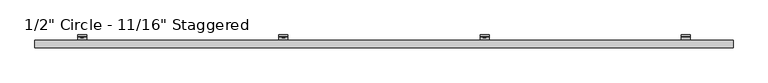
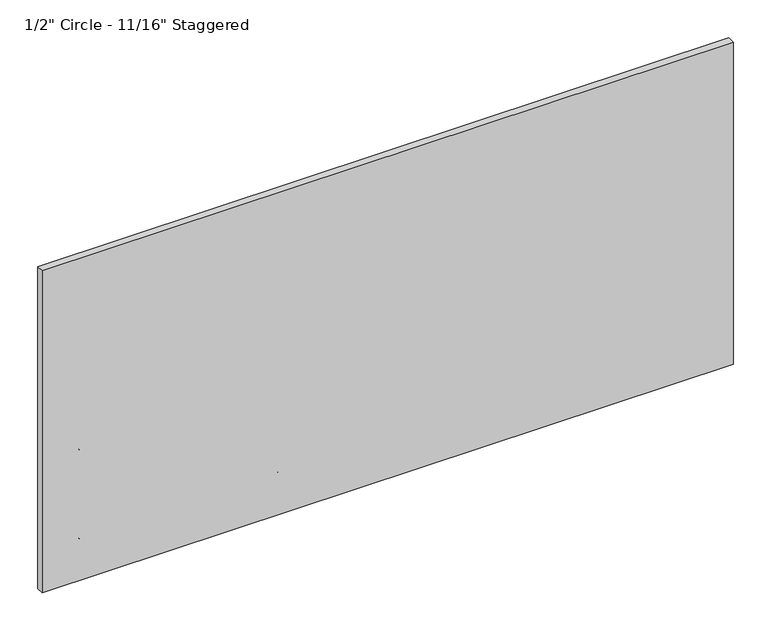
"""IFC4 building model written with IfcOpenShell, lengths in millimetres: plate geometry."""

from ifc_helpers import new_model, si_unit, point, frame, frame_2d, origin, place, context, project, spatial, polyline, circle_curve, trimmed, segment, composite_curve, outline, extrude, source, transform, mapped, element, save
from ifc_brep_helpers import plane_surface, cylinder_surface, revolved_surface, advanced_brep


def plate_b30df0bb(model_context):
    return source(origin(), model_context, "Body", "SolidModel", [
        advanced_brep(
        [(1279.525, -47.625, 561.2468868), (1279.525, -51.2819443, 553.5848544), (1279.525, -89.5163624, 526.8128266), (1279.525, -92.9330442, 530.2295084), (1279.525, -54.3526876, 557.2437649), (1279.525, -52.4002, 561.2469577), (1279.525, -52.4002, 595.439572), (1279.525, -47.625, 595.439572), (1317.625, -47.625, 561.2468868), (1317.625, -47.625, 595.439572), (1317.625, -52.4002, 595.439572), (1317.625, -52.4002, 561.2469577), (1317.625, -54.3526876, 557.2437649), (1317.625, -92.9330442, 530.2295084), (1317.625, -89.5163624, 526.8128266), (1317.625, -51.2819443, 553.5848544), (1305.3161889, -52.4002, 581.3943558), (1305.3161889, -52.4002, 575.0443558), (1289.0883287, -52.4002, 575.0443558), (1289.0883287, -52.4002, 581.3943558), (1305.3161889, -47.625, 575.0443558), (1305.3161889, -47.625, 581.3943558), (1289.0883287, -47.625, 581.3943558), (1289.0883287, -47.625, 575.0443558)],
        [
            (0, 1, circle_curve(frame((1279.525, -57.4802202, 561.2468868), z_axis=(-1.0, 0.0, 0.0), x_axis=(0.0, -1.0, 0.0)), 9.8552202)),
            (1, 2),
            (2, 3),
            (3, 4),
            (4, 5, circle_curve(frame((1279.525, -57.4803246, 561.2469577), z_axis=(1.0, 0.0, 0.0), x_axis=(0.0, -1.0, 0.0)), 5.0801246)),
            (5, 6),
            (6, 7),
            (7, 0),
            (8, 9),
            (9, 10),
            (10, 11),
            (11, 12, circle_curve(frame((1317.625, -57.4803246, 561.2469577), z_axis=(-1.0, 0.0, 0.0), x_axis=(0.0, -1.0, 0.0)), 5.0801246)),
            (12, 13),
            (13, 14),
            (14, 15),
            (15, 8, circle_curve(frame((1317.625, -57.4802202, 561.2468868), z_axis=(1.0, 0.0, 0.0), x_axis=(0.0, -1.0, 0.0)), 9.8552202)),
            (4, 12),
            (11, 5),
            (10, 6),
            (16, 17, circle_curve(frame((1305.3161889, -52.4002, 578.2193558), z_axis=(0.0, 1.0, 0.0), x_axis=(0.0, 0.0, -1.0)), 3.175)),
            (17, 18),
            (18, 19, circle_curve(frame((1289.0883287, -52.4002, 578.2193558), z_axis=(0.0, 1.0, 0.0), x_axis=(0.0, 0.0, -1.0)), 3.175)),
            (19, 16),
            (9, 7),
            (8, 0),
            (20, 21, circle_curve(frame((1305.3161889, -47.625, 578.2193558), z_axis=(0.0, -1.0, 0.0), x_axis=(0.0, 0.0, -1.0)), 3.175)),
            (21, 22),
            (22, 23, circle_curve(frame((1289.0883287, -47.625, 578.2193558), z_axis=(0.0, -1.0, 0.0), x_axis=(0.0, 0.0, -1.0)), 3.175)),
            (23, 20),
            (15, 1),
            (20, 17),
            (16, 21),
            (19, 22),
            (18, 23),
            (14, 2),
            (13, 3),
        ],
        [
            plane_surface(frame((1279.525, -67.3354404, 561.2468868), z_axis=(-1.0, 0.0, 0.0), x_axis=(0.0, 0.0, 1.0))),
            plane_surface(frame((1317.625, -67.3354404, 561.2468868), z_axis=(1.0, 0.0, 0.0), x_axis=(0.0, 0.0, -1.0))),
            revolved_surface(polyline([(1317.625, -62.5604492, 561.2469577), (1279.525, -62.5604492, 561.2469577)]), (1317.625, -57.4803246, 561.2469577), (1.0, 0.0, 0.0)),
            plane_surface(frame((1279.525, -52.4002, 561.2469577), z_axis=(0.0, -1.0, 0.0), x_axis=(1.0, 0.0, 0.0))),
            plane_surface(frame((1279.525, -52.4002, 595.439572), z_axis=(0.0, 0.0, 1.0), x_axis=(1.0, 0.0, 0.0))),
            plane_surface(frame((1279.525, -47.625, 595.439572), z_axis=(0.0, 1.0, 6.99569853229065e-12), x_axis=(1.0, 0.0, 0.0))),
            cylinder_surface(frame((1317.625, -57.4802202, 561.2468868), z_axis=(-1.0, 0.0, 0.0), x_axis=(0.0, -1.0, 0.0)), 9.8552202),
            revolved_surface(polyline([(1305.3161889, -52.4002, 575.0443558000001), (1305.3161889, -47.625, 575.0443558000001)]), (1305.3161889, -25.6669948, 578.2193558), (0.0, -1.0, 0.0)),
            plane_surface(frame((1305.3161889, -86.677982, 581.3943558), z_axis=(0.0, 0.0, -1.0), x_axis=(0.0, 1.0, 0.0))),
            revolved_surface(polyline([(1289.0883287, -52.4002, 575.0443558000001), (1289.0883287, -47.625, 575.0443558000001)]), (1289.0883287, -25.6669948, 578.2193558), (0.0, -1.0, 0.0)),
            plane_surface(frame((1289.0883287, -86.677982, 575.0443558), z_axis=(-2.7237733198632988e-11, 0.0, 1.0), x_axis=(0.0, 1.0, 0.0))),
            plane_surface(frame((1279.525, -51.2819443, 553.5848544), z_axis=(0.0, 0.5735764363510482, -0.8191520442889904), x_axis=(1.0, 0.0, 0.0))),
            plane_surface(frame((1279.525, -89.5163624, 526.8128266), z_axis=(0.0, -0.7071067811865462, -0.7071067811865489), x_axis=(1.0, 0.0, 0.0))),
            plane_surface(frame((1279.525, -92.9330442, 530.2295084), z_axis=(0.0, -0.5735764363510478, 0.8191520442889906), x_axis=(1.0, 0.0, 0.0))),
        ],
        [
            (0, [[1, 2, 3, 4, 5, 6, 7, 8]]),
            (1, [[9, 10, 11, 12, 13, 14, 15, 16]]),
            (2, [[-5, 17, -12, 18]]),
            (3, [[-6, -18, -11, 19], [20, 21, 22, 23]]),
            (4, [[-7, -19, -10, 24]]),
            (5, [[-8, -24, -9, 25], [26, 27, 28, 29]]),
            (6, [[-1, -25, -16, 30]]),
            (7, [[31, -20, 32, -26]]),
            (8, [[-32, -23, 33, -27]]),
            (9, [[-33, -22, 34, -28]]),
            (10, [[-31, -29, -34, -21]]),
            (11, [[-2, -30, -15, 35]]),
            (12, [[-3, -35, -14, 36]]),
            (13, [[-4, -36, -13, -17]]),
        ],
    ),
        extrude(outline(polyline([(578.3961989, 427.8403368), (574.0504864, 430.349335), (574.0504864, 435.3673316), (578.3961989, 437.8763299), (582.7419114, 435.3673316), (582.7419114, 430.349335), (578.3961989, 427.8403368)])), frame((0.0, -58.7607779, 0.0), z_axis=(0.0, 1.0, 0.0), x_axis=(0.0, 0.0, 1.0)), (0.0, 0.0, 1.0), 11.1357779),
        extrude(outline(composite_curve([segment(trimmed(circle_curve(frame_2d((578.4895059, 432.8583333)), 6.35), [point((578.4895059, 439.2083333))], [point((578.4895059, 426.5083333))], False, "CARTESIAN"), True, "CONTINUOUS"), segment(trimmed(circle_curve(frame_2d((578.4895059, 432.8583333)), 6.35), [point((578.4895059, 426.5083333))], [point((578.4895059, 439.2083333))], False, "CARTESIAN"), True, "CONTINUOUS")], self_intersect=False)), frame((0.0, -57.0817743, 0.0), z_axis=(0.0, 1.0, 0.0), x_axis=(0.0, 0.0, 1.0)), (0.0, 0.0, 1.0), 9.4567743),
        advanced_brep(
        [(413.8083333, -47.625, 561.2468868), (413.8083333, -51.2819443, 553.5848544), (413.8083333, -89.5163624, 526.8128266), (413.8083333, -92.9330442, 530.2295084), (413.8083333, -54.3526876, 557.2437649), (413.8083333, -52.4002, 561.2469577), (413.8083333, -52.4002, 595.439572), (413.8083333, -47.625, 595.439572), (451.9083333, -47.625, 561.2468868), (451.9083333, -47.625, 595.439572), (451.9083333, -52.4002, 595.439572), (451.9083333, -52.4002, 561.2469577), (451.9083333, -54.3526876, 557.2437649), (451.9083333, -92.9330442, 530.2295084), (451.9083333, -89.5163624, 526.8128266), (451.9083333, -51.2819443, 553.5848544), (439.5995222, -52.4002, 581.3943558), (439.5995222, -52.4002, 575.0443558), (423.371662, -52.4002, 575.0443558), (423.371662, -52.4002, 581.3943558), (439.5995222, -47.625, 575.0443558), (439.5995222, -47.625, 581.3943558), (423.371662, -47.625, 581.3943558), (423.371662, -47.625, 575.0443558)],
        [
            (0, 1, circle_curve(frame((413.8083333, -57.4802202, 561.2468868), z_axis=(-1.0, 0.0, 0.0), x_axis=(0.0, -1.0, 0.0)), 9.8552202)),
            (1, 2),
            (2, 3),
            (3, 4),
            (4, 5, circle_curve(frame((413.8083333, -57.4803246, 561.2469577), z_axis=(1.0, 0.0, 0.0), x_axis=(0.0, -1.0, 0.0)), 5.0801246)),
            (5, 6),
            (6, 7),
            (7, 0),
            (8, 9),
            (9, 10),
            (10, 11),
            (11, 12, circle_curve(frame((451.9083333, -57.4803246, 561.2469577), z_axis=(-1.0, 0.0, 0.0), x_axis=(0.0, -1.0, 0.0)), 5.0801246)),
            (12, 13),
            (13, 14),
            (14, 15),
            (15, 8, circle_curve(frame((451.9083333, -57.4802202, 561.2468868), z_axis=(1.0, 0.0, 0.0), x_axis=(0.0, -1.0, 0.0)), 9.8552202)),
            (4, 12),
            (11, 5),
            (10, 6),
            (16, 17, circle_curve(frame((439.5995222, -52.4002, 578.2193558), z_axis=(0.0, 1.0, 0.0), x_axis=(0.0, 0.0, -1.0)), 3.175)),
            (17, 18),
            (18, 19, circle_curve(frame((423.371662, -52.4002, 578.2193558), z_axis=(0.0, 1.0, 0.0), x_axis=(0.0, 0.0, -1.0)), 3.175)),
            (19, 16),
            (9, 7),
            (8, 0),
            (20, 21, circle_curve(frame((439.5995222, -47.625, 578.2193558), z_axis=(0.0, -1.0, 0.0), x_axis=(0.0, 0.0, -1.0)), 3.175)),
            (21, 22),
            (22, 23, circle_curve(frame((423.371662, -47.625, 578.2193558), z_axis=(0.0, -1.0, 0.0), x_axis=(0.0, 0.0, -1.0)), 3.175)),
            (23, 20),
            (15, 1),
            (20, 17),
            (16, 21),
            (19, 22),
            (18, 23),
            (14, 2),
            (13, 3),
        ],
        [
            plane_surface(frame((413.8083333, -67.3354404, 561.2468868), z_axis=(-1.0, 0.0, 0.0), x_axis=(0.0, 0.0, 1.0))),
            plane_surface(frame((451.9083333, -67.3354404, 561.2468868), z_axis=(1.0, 0.0, 0.0), x_axis=(0.0, 0.0, -1.0))),
            revolved_surface(polyline([(451.9083333, -62.5604492, 561.2469577), (413.8083333, -62.5604492, 561.2469577)]), (451.9083333, -57.4803246, 561.2469577), (1.0, 0.0, 0.0)),
            plane_surface(frame((413.8083333, -52.4002, 561.2469577), z_axis=(0.0, -1.0, 0.0), x_axis=(1.0, 0.0, 0.0))),
            plane_surface(frame((413.8083333, -52.4002, 595.439572), z_axis=(0.0, 0.0, 1.0), x_axis=(1.0, 0.0, 0.0))),
            plane_surface(frame((413.8083333, -47.625, 595.439572), z_axis=(0.0, 1.0, 6.99569853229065e-12), x_axis=(1.0, 0.0, 0.0))),
            cylinder_surface(frame((451.9083333, -57.4802202, 561.2468868), z_axis=(-1.0, 0.0, 0.0), x_axis=(0.0, -1.0, 0.0)), 9.8552202),
            revolved_surface(polyline([(439.5995222, -52.4002, 575.0443558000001), (439.5995222, -47.625, 575.0443558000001)]), (439.5995222, -25.6669948, 578.2193558), (0.0, -1.0, 0.0)),
            plane_surface(frame((439.5995222, -86.677982, 581.3943558), z_axis=(0.0, 0.0, -1.0), x_axis=(0.0, 1.0, 0.0))),
            revolved_surface(polyline([(423.371662, -52.4002, 575.0443558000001), (423.371662, -47.625, 575.0443558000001)]), (423.371662, -25.6669948, 578.2193558), (0.0, -1.0, 0.0)),
            plane_surface(frame((423.371662, -86.677982, 575.0443558), z_axis=(-2.7237733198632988e-11, 0.0, 1.0), x_axis=(0.0, 1.0, 0.0))),
            plane_surface(frame((413.8083333, -51.2819443, 553.5848544), z_axis=(0.0, 0.5735764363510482, -0.8191520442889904), x_axis=(1.0, 0.0, 0.0))),
            plane_surface(frame((413.8083333, -89.5163624, 526.8128266), z_axis=(0.0, -0.7071067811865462, -0.7071067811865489), x_axis=(1.0, 0.0, 0.0))),
            plane_surface(frame((413.8083333, -92.9330442, 530.2295084), z_axis=(0.0, -0.5735764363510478, 0.8191520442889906), x_axis=(1.0, 0.0, 0.0))),
        ],
        [
            (0, [[1, 2, 3, 4, 5, 6, 7, 8]]),
            (1, [[9, 10, 11, 12, 13, 14, 15, 16]]),
            (2, [[-5, 17, -12, 18]]),
            (3, [[-6, -18, -11, 19], [20, 21, 22, 23]]),
            (4, [[-7, -19, -10, 24]]),
            (5, [[-8, -24, -9, 25], [26, 27, 28, 29]]),
            (6, [[-1, -25, -16, 30]]),
            (7, [[31, -20, 32, -26]]),
            (8, [[-32, -23, 33, -27]]),
            (9, [[-33, -22, 34, -28]]),
            (10, [[-31, -29, -34, -21]]),
            (11, [[-2, -30, -15, 35]]),
            (12, [[-3, -35, -14, 36]]),
            (13, [[-4, -36, -13, -17]]),
        ],
    ),
        extrude(outline(polyline([(578.3961989, -437.8763299), (574.0504864, -435.3673316), (574.0504864, -430.349335), (578.3961989, -427.8403368), (582.7419114, -430.349335), (582.7419114, -435.3673316), (578.3961989, -437.8763299)])), frame((0.0, -58.7607779, 0.0), z_axis=(0.0, 1.0, 0.0), x_axis=(0.0, 0.0, 1.0)), (0.0, 0.0, 1.0), 11.1357779),
        extrude(outline(composite_curve([segment(trimmed(circle_curve(frame_2d((578.4895059, -432.8583333)), 6.35), [point((578.4895059, -426.5083333))], [point((578.4895059, -439.2083333))], False, "CARTESIAN"), True, "CONTINUOUS"), segment(trimmed(circle_curve(frame_2d((578.4895059, -432.8583333)), 6.35), [point((578.4895059, -439.2083333))], [point((578.4895059, -426.5083333))], False, "CARTESIAN"), True, "CONTINUOUS")], self_intersect=False)), frame((0.0, -57.0817743, 0.0), z_axis=(0.0, 1.0, 0.0), x_axis=(0.0, 0.0, 1.0)), (0.0, 0.0, 1.0), 9.4567743),
        advanced_brep(
        [(-451.9083333, -47.625, 561.2468868), (-451.9083333, -51.2819443, 553.5848544), (-451.9083333, -89.5163624, 526.8128266), (-451.9083333, -92.9330442, 530.2295084), (-451.9083333, -54.3526876, 557.2437649), (-451.9083333, -52.4002, 561.2469577), (-451.9083333, -52.4002, 595.439572), (-451.9083333, -47.625, 595.439572), (-413.8083333, -47.625, 561.2468868), (-413.8083333, -47.625, 595.439572), (-413.8083333, -52.4002, 595.439572), (-413.8083333, -52.4002, 561.2469577), (-413.8083333, -54.3526876, 557.2437649), (-413.8083333, -92.9330442, 530.2295084), (-413.8083333, -89.5163624, 526.8128266), (-413.8083333, -51.2819443, 553.5848544), (-426.1171444, -52.4002, 581.3943558), (-426.1171444, -52.4002, 575.0443558), (-442.3450046, -52.4002, 575.0443558), (-442.3450046, -52.4002, 581.3943558), (-426.1171444, -47.625, 575.0443558), (-426.1171444, -47.625, 581.3943558), (-442.3450046, -47.625, 581.3943558), (-442.3450046, -47.625, 575.0443558)],
        [
            (0, 1, circle_curve(frame((-451.9083333, -57.4802202, 561.2468868), z_axis=(-1.0, 0.0, 0.0), x_axis=(0.0, -1.0, 0.0)), 9.8552202)),
            (1, 2),
            (2, 3),
            (3, 4),
            (4, 5, circle_curve(frame((-451.9083333, -57.4803246, 561.2469577), z_axis=(1.0, 0.0, 0.0), x_axis=(0.0, -1.0, 0.0)), 5.0801246)),
            (5, 6),
            (6, 7),
            (7, 0),
            (8, 9),
            (9, 10),
            (10, 11),
            (11, 12, circle_curve(frame((-413.8083333, -57.4803246, 561.2469577), z_axis=(-1.0, 0.0, 0.0), x_axis=(0.0, -1.0, 0.0)), 5.0801246)),
            (12, 13),
            (13, 14),
            (14, 15),
            (15, 8, circle_curve(frame((-413.8083333, -57.4802202, 561.2468868), z_axis=(1.0, 0.0, 0.0), x_axis=(0.0, -1.0, 0.0)), 9.8552202)),
            (4, 12),
            (11, 5),
            (10, 6),
            (16, 17, circle_curve(frame((-426.1171444, -52.4002, 578.2193558), z_axis=(0.0, 1.0, 0.0), x_axis=(0.0, 0.0, -1.0)), 3.175)),
            (17, 18),
            (18, 19, circle_curve(frame((-442.3450046, -52.4002, 578.2193558), z_axis=(0.0, 1.0, 0.0), x_axis=(0.0, 0.0, -1.0)), 3.175)),
            (19, 16),
            (9, 7),
            (8, 0),
            (20, 21, circle_curve(frame((-426.1171444, -47.625, 578.2193558), z_axis=(0.0, -1.0, 0.0), x_axis=(0.0, 0.0, -1.0)), 3.175)),
            (21, 22),
            (22, 23, circle_curve(frame((-442.3450046, -47.625, 578.2193558), z_axis=(0.0, -1.0, 0.0), x_axis=(0.0, 0.0, -1.0)), 3.175)),
            (23, 20),
            (15, 1),
            (20, 17),
            (16, 21),
            (19, 22),
            (18, 23),
            (14, 2),
            (13, 3),
        ],
        [
            plane_surface(frame((-451.9083333, -67.3354404, 561.2468868), z_axis=(-1.0, 0.0, 0.0), x_axis=(0.0, 0.0, 1.0))),
            plane_surface(frame((-413.8083333, -67.3354404, 561.2468868), z_axis=(1.0, 0.0, 0.0), x_axis=(0.0, 0.0, -1.0))),
            revolved_surface(polyline([(-413.8083333, -62.5604492, 561.2469577), (-451.9083333, -62.5604492, 561.2469577)]), (-413.8083333, -57.4803246, 561.2469577), (1.0, 0.0, 0.0)),
            plane_surface(frame((-451.9083333, -52.4002, 561.2469577), z_axis=(0.0, -1.0, 0.0), x_axis=(1.0, 0.0, 0.0))),
            plane_surface(frame((-451.9083333, -52.4002, 595.439572), z_axis=(0.0, 0.0, 1.0), x_axis=(1.0, 0.0, 0.0))),
            plane_surface(frame((-451.9083333, -47.625, 595.439572), z_axis=(0.0, 1.0, 6.99569853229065e-12), x_axis=(1.0, 0.0, 0.0))),
            cylinder_surface(frame((-413.8083333, -57.4802202, 561.2468868), z_axis=(-1.0, 0.0, 0.0), x_axis=(0.0, -1.0, 0.0)), 9.8552202),
            revolved_surface(polyline([(-426.1171444, -52.4002, 575.0443558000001), (-426.1171444, -47.625, 575.0443558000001)]), (-426.1171444, -25.6669948, 578.2193558), (0.0, -1.0, 0.0)),
            plane_surface(frame((-426.1171444, -86.677982, 581.3943558), z_axis=(0.0, 0.0, -1.0), x_axis=(0.0, 1.0, 0.0))),
            revolved_surface(polyline([(-442.3450046, -52.4002, 575.0443558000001), (-442.3450046, -47.625, 575.0443558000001)]), (-442.3450046, -25.6669948, 578.2193558), (0.0, -1.0, 0.0)),
            plane_surface(frame((-442.3450046, -86.677982, 575.0443558), z_axis=(-2.7237733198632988e-11, 0.0, 1.0), x_axis=(0.0, 1.0, 0.0))),
            plane_surface(frame((-451.9083333, -51.2819443, 553.5848544), z_axis=(0.0, 0.5735764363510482, -0.8191520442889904), x_axis=(1.0, 0.0, 0.0))),
            plane_surface(frame((-451.9083333, -89.5163624, 526.8128266), z_axis=(0.0, -0.7071067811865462, -0.7071067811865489), x_axis=(1.0, 0.0, 0.0))),
            plane_surface(frame((-451.9083333, -92.9330442, 530.2295084), z_axis=(0.0, -0.5735764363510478, 0.8191520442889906), x_axis=(1.0, 0.0, 0.0))),
        ],
        [
            (0, [[1, 2, 3, 4, 5, 6, 7, 8]]),
            (1, [[9, 10, 11, 12, 13, 14, 15, 16]]),
            (2, [[-5, 17, -12, 18]]),
            (3, [[-6, -18, -11, 19], [20, 21, 22, 23]]),
            (4, [[-7, -19, -10, 24]]),
            (5, [[-8, -24, -9, 25], [26, 27, 28, 29]]),
            (6, [[-1, -25, -16, 30]]),
            (7, [[31, -20, 32, -26]]),
            (8, [[-32, -23, 33, -27]]),
            (9, [[-33, -22, 34, -28]]),
            (10, [[-31, -29, -34, -21]]),
            (11, [[-2, -30, -15, 35]]),
            (12, [[-3, -35, -14, 36]]),
            (13, [[-4, -36, -13, -17]]),
        ],
    ),
        extrude(outline(polyline([(578.3961989, -1303.5929966), (574.0504864, -1301.0839983), (574.0504864, -1296.0660017), (578.3961989, -1293.5570034), (582.7419114, -1296.0660017), (582.7419114, -1301.0839983), (578.3961989, -1303.5929966)])), frame((0.0, -58.7607779, 0.0), z_axis=(0.0, 1.0, 0.0), x_axis=(0.0, 0.0, 1.0)), (0.0, 0.0, 1.0), 11.1357779),
        extrude(outline(composite_curve([segment(trimmed(circle_curve(frame_2d((578.4895059, -1298.575)), 6.35), [point((578.4895059, -1292.225))], [point((578.4895059, -1304.925))], False, "CARTESIAN"), True, "CONTINUOUS"), segment(trimmed(circle_curve(frame_2d((578.4895059, -1298.575)), 6.35), [point((578.4895059, -1304.925))], [point((578.4895059, -1292.225))], False, "CARTESIAN"), True, "CONTINUOUS")], self_intersect=False)), frame((0.0, -57.0817743, 0.0), z_axis=(0.0, 1.0, 0.0), x_axis=(0.0, 0.0, 1.0)), (0.0, 0.0, 1.0), 9.4567743),
        advanced_brep(
        [(-1317.625, -47.625, 561.2468868), (-1317.625, -51.2819443, 553.5848544), (-1317.625, -89.5163624, 526.8128266), (-1317.625, -92.9330442, 530.2295084), (-1317.625, -54.3526876, 557.2437649), (-1317.625, -52.4002, 561.2469577), (-1317.625, -52.4002, 595.439572), (-1317.625, -47.625, 595.439572), (-1279.525, -47.625, 561.2468868), (-1279.525, -47.625, 595.439572), (-1279.525, -52.4002, 595.439572), (-1279.525, -52.4002, 561.2469577), (-1279.525, -54.3526876, 557.2437649), (-1279.525, -92.9330442, 530.2295084), (-1279.525, -89.5163624, 526.8128266), (-1279.525, -51.2819443, 553.5848544), (-1291.8338111, -52.4002, 581.3943558), (-1291.8338111, -52.4002, 575.0443558), (-1308.0616713, -52.4002, 575.0443558), (-1308.0616713, -52.4002, 581.3943558), (-1291.8338111, -47.625, 575.0443558), (-1291.8338111, -47.625, 581.3943558), (-1308.0616713, -47.625, 581.3943558), (-1308.0616713, -47.625, 575.0443558)],
        [
            (0, 1, circle_curve(frame((-1317.625, -57.4802202, 561.2468868), z_axis=(-1.0, 0.0, 0.0), x_axis=(0.0, -1.0, 0.0)), 9.8552202)),
            (1, 2),
            (2, 3),
            (3, 4),
            (4, 5, circle_curve(frame((-1317.625, -57.4803246, 561.2469577), z_axis=(1.0, 0.0, 0.0), x_axis=(0.0, -1.0, 0.0)), 5.0801246)),
            (5, 6),
            (6, 7),
            (7, 0),
            (8, 9),
            (9, 10),
            (10, 11),
            (11, 12, circle_curve(frame((-1279.525, -57.4803246, 561.2469577), z_axis=(-1.0, 0.0, 0.0), x_axis=(0.0, -1.0, 0.0)), 5.0801246)),
            (12, 13),
            (13, 14),
            (14, 15),
            (15, 8, circle_curve(frame((-1279.525, -57.4802202, 561.2468868), z_axis=(1.0, 0.0, 0.0), x_axis=(0.0, -1.0, 0.0)), 9.8552202)),
            (4, 12),
            (11, 5),
            (10, 6),
            (16, 17, circle_curve(frame((-1291.8338111, -52.4002, 578.2193558), z_axis=(0.0, 1.0, 0.0), x_axis=(0.0, 0.0, -1.0)), 3.175)),
            (17, 18),
            (18, 19, circle_curve(frame((-1308.0616713, -52.4002, 578.2193558), z_axis=(0.0, 1.0, 0.0), x_axis=(0.0, 0.0, -1.0)), 3.175)),
            (19, 16),
            (9, 7),
            (8, 0),
            (20, 21, circle_curve(frame((-1291.8338111, -47.625, 578.2193558), z_axis=(0.0, -1.0, 0.0), x_axis=(0.0, 0.0, -1.0)), 3.175)),
            (21, 22),
            (22, 23, circle_curve(frame((-1308.0616713, -47.625, 578.2193558), z_axis=(0.0, -1.0, 0.0), x_axis=(0.0, 0.0, -1.0)), 3.175)),
            (23, 20),
            (15, 1),
            (20, 17),
            (16, 21),
            (19, 22),
            (18, 23),
            (14, 2),
            (13, 3),
        ],
        [
            plane_surface(frame((-1317.625, -67.3354404, 561.2468868), z_axis=(-1.0, 0.0, 0.0), x_axis=(0.0, 0.0, 1.0))),
            plane_surface(frame((-1279.525, -67.3354404, 561.2468868), z_axis=(1.0, 0.0, 0.0), x_axis=(0.0, 0.0, -1.0))),
            revolved_surface(polyline([(-1279.525, -62.5604492, 561.2469577), (-1317.625, -62.5604492, 561.2469577)]), (-1279.525, -57.4803246, 561.2469577), (1.0, 0.0, 0.0)),
            plane_surface(frame((-1317.625, -52.4002, 561.2469577), z_axis=(0.0, -1.0, 0.0), x_axis=(1.0, 0.0, 0.0))),
            plane_surface(frame((-1317.625, -52.4002, 595.439572), z_axis=(0.0, 0.0, 1.0), x_axis=(1.0, 0.0, 0.0))),
            plane_surface(frame((-1317.625, -47.625, 595.439572), z_axis=(0.0, 1.0, 6.99569853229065e-12), x_axis=(1.0, 0.0, 0.0))),
            cylinder_surface(frame((-1279.525, -57.4802202, 561.2468868), z_axis=(-1.0, 0.0, 0.0), x_axis=(0.0, -1.0, 0.0)), 9.8552202),
            revolved_surface(polyline([(-1291.8338111, -52.4002, 575.0443558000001), (-1291.8338111, -47.625, 575.0443558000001)]), (-1291.8338111, -25.6669948, 578.2193558), (0.0, -1.0, 0.0)),
            plane_surface(frame((-1291.8338111, -86.677982, 581.3943558), z_axis=(0.0, 0.0, -1.0), x_axis=(0.0, 1.0, 0.0))),
            revolved_surface(polyline([(-1308.0616713, -52.4002, 575.0443558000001), (-1308.0616713, -47.625, 575.0443558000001)]), (-1308.0616713, -25.6669948, 578.2193558), (0.0, -1.0, 0.0)),
            plane_surface(frame((-1308.0616713, -86.677982, 575.0443558), z_axis=(-2.7237733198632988e-11, 0.0, 1.0), x_axis=(0.0, 1.0, 0.0))),
            plane_surface(frame((-1317.625, -51.2819443, 553.5848544), z_axis=(0.0, 0.5735764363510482, -0.8191520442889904), x_axis=(1.0, 0.0, 0.0))),
            plane_surface(frame((-1317.625, -89.5163624, 526.8128266), z_axis=(0.0, -0.7071067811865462, -0.7071067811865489), x_axis=(1.0, 0.0, 0.0))),
            plane_surface(frame((-1317.625, -92.9330442, 530.2295084), z_axis=(0.0, -0.5735764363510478, 0.8191520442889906), x_axis=(1.0, 0.0, 0.0))),
        ],
        [
            (0, [[1, 2, 3, 4, 5, 6, 7, 8]]),
            (1, [[9, 10, 11, 12, 13, 14, 15, 16]]),
            (2, [[-5, 17, -12, 18]]),
            (3, [[-6, -18, -11, 19], [20, 21, 22, 23]]),
            (4, [[-7, -19, -10, 24]]),
            (5, [[-8, -24, -9, 25], [26, 27, 28, 29]]),
            (6, [[-1, -25, -16, 30]]),
            (7, [[31, -20, 32, -26]]),
            (8, [[-32, -23, 33, -27]]),
            (9, [[-33, -22, 34, -28]]),
            (10, [[-31, -29, -34, -21]]),
            (11, [[-2, -30, -15, 35]]),
            (12, [[-3, -35, -14, 36]]),
            (13, [[-4, -36, -13, -17]]),
        ],
    ),
        extrude(outline(polyline([(169.8795323, 1293.5570034), (165.5338197, 1296.0660017), (165.5338197, 1301.0839983), (169.8795323, 1303.5929966), (174.2252448, 1301.0839983), (174.2252448, 1296.0660017), (169.8795323, 1293.5570034)])), frame((0.0, -58.7607779, 0.0), z_axis=(0.0, 1.0, 0.0), x_axis=(0.0, 0.0, 1.0)), (0.0, 0.0, 1.0), 11.1357779),
        extrude(outline(composite_curve([segment(trimmed(circle_curve(frame_2d((169.9728392, 1298.575)), 6.35), [point((169.9728392, 1304.925))], [point((169.9728392, 1292.225))], False, "CARTESIAN"), True, "CONTINUOUS"), segment(trimmed(circle_curve(frame_2d((169.9728392, 1298.575)), 6.35), [point((169.9728392, 1292.225))], [point((169.9728392, 1304.925))], False, "CARTESIAN"), True, "CONTINUOUS")], self_intersect=False)), frame((0.0, -57.0817743, 0.0), z_axis=(0.0, 1.0, 0.0), x_axis=(0.0, 0.0, 1.0)), (0.0, 0.0, 1.0), 9.4567743),
        advanced_brep(
        [(1279.525, -47.625, 152.7302202), (1279.525, -51.2819443, 145.0681877), (1279.525, -89.5163624, 118.29616), (1279.525, -92.9330442, 121.7128418), (1279.525, -54.3526876, 148.7270983), (1279.525, -52.4002, 152.7302911), (1279.525, -52.4002, 186.9229053), (1279.525, -47.625, 186.9229053), (1317.625, -47.625, 152.7302202), (1317.625, -47.625, 186.9229053), (1317.625, -52.4002, 186.9229053), (1317.625, -52.4002, 152.7302911), (1317.625, -54.3526876, 148.7270983), (1317.625, -92.9330442, 121.7128418), (1317.625, -89.5163624, 118.29616), (1317.625, -51.2819443, 145.0681877), (1305.3161889, -52.4002, 172.8776891), (1305.3161889, -52.4002, 166.5276891), (1289.0883287, -52.4002, 166.5276891), (1289.0883287, -52.4002, 172.8776891), (1305.3161889, -47.625, 166.5276891), (1305.3161889, -47.625, 172.8776891), (1289.0883287, -47.625, 172.8776891), (1289.0883287, -47.625, 166.5276891)],
        [
            (0, 1, circle_curve(frame((1279.525, -57.4802202, 152.7302202), z_axis=(-1.0, 0.0, 0.0), x_axis=(0.0, -1.0, 0.0)), 9.8552202)),
            (1, 2),
            (2, 3),
            (3, 4),
            (4, 5, circle_curve(frame((1279.525, -57.4803246, 152.7302911), z_axis=(1.0, 0.0, 0.0), x_axis=(0.0, -1.0, 0.0)), 5.0801246)),
            (5, 6),
            (6, 7),
            (7, 0),
            (8, 9),
            (9, 10),
            (10, 11),
            (11, 12, circle_curve(frame((1317.625, -57.4803246, 152.7302911), z_axis=(-1.0, 0.0, 0.0), x_axis=(0.0, -1.0, 0.0)), 5.0801246)),
            (12, 13),
            (13, 14),
            (14, 15),
            (15, 8, circle_curve(frame((1317.625, -57.4802202, 152.7302202), z_axis=(1.0, 0.0, 0.0), x_axis=(0.0, -1.0, 0.0)), 9.8552202)),
            (4, 12),
            (11, 5),
            (10, 6),
            (16, 17, circle_curve(frame((1305.3161889, -52.4002, 169.7026891), z_axis=(0.0, 1.0, 0.0), x_axis=(0.0, 0.0, -1.0)), 3.175)),
            (17, 18),
            (18, 19, circle_curve(frame((1289.0883287, -52.4002, 169.7026891), z_axis=(0.0, 1.0, 0.0), x_axis=(0.0, 0.0, -1.0)), 3.175)),
            (19, 16),
            (9, 7),
            (8, 0),
            (20, 21, circle_curve(frame((1305.3161889, -47.625, 169.7026891), z_axis=(0.0, -1.0, 0.0), x_axis=(0.0, 0.0, -1.0)), 3.175)),
            (21, 22),
            (22, 23, circle_curve(frame((1289.0883287, -47.625, 169.7026891), z_axis=(0.0, -1.0, 0.0), x_axis=(0.0, 0.0, -1.0)), 3.175)),
            (23, 20),
            (15, 1),
            (20, 17),
            (16, 21),
            (19, 22),
            (18, 23),
            (14, 2),
            (13, 3),
        ],
        [
            plane_surface(frame((1279.525, -67.3354404, 152.7302202), z_axis=(-1.0, 0.0, 0.0), x_axis=(0.0, 0.0, 1.0))),
            plane_surface(frame((1317.625, -67.3354404, 152.7302202), z_axis=(1.0, 0.0, 0.0), x_axis=(0.0, 0.0, -1.0))),
            revolved_surface(polyline([(1317.625, -62.5604492, 152.7302911), (1279.525, -62.5604492, 152.7302911)]), (1317.625, -57.4803246, 152.7302911), (1.0, 0.0, 0.0)),
            plane_surface(frame((1279.525, -52.4002, 152.7302911), z_axis=(0.0, -1.0, 0.0), x_axis=(1.0, 0.0, 0.0))),
            plane_surface(frame((1279.525, -52.4002, 186.9229053), z_axis=(0.0, 0.0, 1.0), x_axis=(1.0, 0.0, 0.0))),
            plane_surface(frame((1279.525, -47.625, 186.9229053), z_axis=(0.0, 1.0, 6.99569853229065e-12), x_axis=(1.0, 0.0, 0.0))),
            cylinder_surface(frame((1317.625, -57.4802202, 152.7302202), z_axis=(-1.0, 0.0, 0.0), x_axis=(0.0, -1.0, 0.0)), 9.8552202),
            revolved_surface(polyline([(1305.3161889, -52.4002, 166.52768909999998), (1305.3161889, -47.625, 166.52768909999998)]), (1305.3161889, -25.6669948, 169.7026891), (0.0, -1.0, 0.0)),
            plane_surface(frame((1305.3161889, -86.677982, 172.8776891), z_axis=(0.0, 0.0, -1.0), x_axis=(0.0, 1.0, 0.0))),
            revolved_surface(polyline([(1289.0883287, -52.4002, 166.52768909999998), (1289.0883287, -47.625, 166.52768909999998)]), (1289.0883287, -25.6669948, 169.7026891), (0.0, -1.0, 0.0)),
            plane_surface(frame((1289.0883287, -86.677982, 166.5276891), z_axis=(-2.723774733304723e-11, 0.0, 1.0), x_axis=(0.0, 1.0, 0.0))),
            plane_surface(frame((1279.525, -51.2819443, 145.0681877), z_axis=(0.0, 0.5735764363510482, -0.8191520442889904), x_axis=(1.0, 0.0, 0.0))),
            plane_surface(frame((1279.525, -89.5163624, 118.29616), z_axis=(0.0, -0.7071067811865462, -0.7071067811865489), x_axis=(1.0, 0.0, 0.0))),
            plane_surface(frame((1279.525, -92.9330442, 121.7128418), z_axis=(0.0, -0.5735764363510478, 0.8191520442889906), x_axis=(1.0, 0.0, 0.0))),
        ],
        [
            (0, [[1, 2, 3, 4, 5, 6, 7, 8]]),
            (1, [[9, 10, 11, 12, 13, 14, 15, 16]]),
            (2, [[-5, 17, -12, 18]]),
            (3, [[-6, -18, -11, 19], [20, 21, 22, 23]]),
            (4, [[-7, -19, -10, 24]]),
            (5, [[-8, -24, -9, 25], [26, 27, 28, 29]]),
            (6, [[-1, -25, -16, 30]]),
            (7, [[31, -20, 32, -26]]),
            (8, [[-32, -23, 33, -27]]),
            (9, [[-33, -22, 34, -28]]),
            (10, [[-31, -29, -34, -21]]),
            (11, [[-2, -30, -15, 35]]),
            (12, [[-3, -35, -14, 36]]),
            (13, [[-4, -36, -13, -17]]),
        ],
    ),
        extrude(outline(polyline([(169.8795323, 427.8403368), (165.5338197, 430.349335), (165.5338197, 435.3673316), (169.8795323, 437.8763299), (174.2252448, 435.3673316), (174.2252448, 430.349335), (169.8795323, 427.8403368)])), frame((0.0, -58.7607779, 0.0), z_axis=(0.0, 1.0, 0.0), x_axis=(0.0, 0.0, 1.0)), (0.0, 0.0, 1.0), 11.1357779),
        extrude(outline(composite_curve([segment(trimmed(circle_curve(frame_2d((169.9728392, 432.8583333)), 6.35), [point((169.9728392, 439.2083333))], [point((169.9728392, 426.5083333))], False, "CARTESIAN"), True, "CONTINUOUS"), segment(trimmed(circle_curve(frame_2d((169.9728392, 432.8583333)), 6.35), [point((169.9728392, 426.5083333))], [point((169.9728392, 439.2083333))], False, "CARTESIAN"), True, "CONTINUOUS")], self_intersect=False)), frame((0.0, -57.0817743, 0.0), z_axis=(0.0, 1.0, 0.0), x_axis=(0.0, 0.0, 1.0)), (0.0, 0.0, 1.0), 9.4567743),
        advanced_brep(
        [(413.8083333, -47.625, 152.7302202), (413.8083333, -51.2819443, 145.0681877), (413.8083333, -89.5163624, 118.29616), (413.8083333, -92.9330442, 121.7128418), (413.8083333, -54.3526876, 148.7270983), (413.8083333, -52.4002, 152.7302911), (413.8083333, -52.4002, 186.9229053), (413.8083333, -47.625, 186.9229053), (451.9083333, -47.625, 152.7302202), (451.9083333, -47.625, 186.9229053), (451.9083333, -52.4002, 186.9229053), (451.9083333, -52.4002, 152.7302911), (451.9083333, -54.3526876, 148.7270983), (451.9083333, -92.9330442, 121.7128418), (451.9083333, -89.5163624, 118.29616), (451.9083333, -51.2819443, 145.0681877), (439.5995222, -52.4002, 172.8776891), (439.5995222, -52.4002, 166.5276891), (423.371662, -52.4002, 166.5276891), (423.371662, -52.4002, 172.8776891), (439.5995222, -47.625, 166.5276891), (439.5995222, -47.625, 172.8776891), (423.371662, -47.625, 172.8776891), (423.371662, -47.625, 166.5276891)],
        [
            (0, 1, circle_curve(frame((413.8083333, -57.4802202, 152.7302202), z_axis=(-1.0, 0.0, 0.0), x_axis=(0.0, -1.0, 0.0)), 9.8552202)),
            (1, 2),
            (2, 3),
            (3, 4),
            (4, 5, circle_curve(frame((413.8083333, -57.4803246, 152.7302911), z_axis=(1.0, 0.0, 0.0), x_axis=(0.0, -1.0, 0.0)), 5.0801246)),
            (5, 6),
            (6, 7),
            (7, 0),
            (8, 9),
            (9, 10),
            (10, 11),
            (11, 12, circle_curve(frame((451.9083333, -57.4803246, 152.7302911), z_axis=(-1.0, 0.0, 0.0), x_axis=(0.0, -1.0, 0.0)), 5.0801246)),
            (12, 13),
            (13, 14),
            (14, 15),
            (15, 8, circle_curve(frame((451.9083333, -57.4802202, 152.7302202), z_axis=(1.0, 0.0, 0.0), x_axis=(0.0, -1.0, 0.0)), 9.8552202)),
            (4, 12),
            (11, 5),
            (10, 6),
            (16, 17, circle_curve(frame((439.5995222, -52.4002, 169.7026891), z_axis=(0.0, 1.0, 0.0), x_axis=(0.0, 0.0, -1.0)), 3.175)),
            (17, 18),
            (18, 19, circle_curve(frame((423.371662, -52.4002, 169.7026891), z_axis=(0.0, 1.0, 0.0), x_axis=(0.0, 0.0, -1.0)), 3.175)),
            (19, 16),
            (9, 7),
            (8, 0),
            (20, 21, circle_curve(frame((439.5995222, -47.625, 169.7026891), z_axis=(0.0, -1.0, 0.0), x_axis=(0.0, 0.0, -1.0)), 3.175)),
            (21, 22),
            (22, 23, circle_curve(frame((423.371662, -47.625, 169.7026891), z_axis=(0.0, -1.0, 0.0), x_axis=(0.0, 0.0, -1.0)), 3.175)),
            (23, 20),
            (15, 1),
            (20, 17),
            (16, 21),
            (19, 22),
            (18, 23),
            (14, 2),
            (13, 3),
        ],
        [
            plane_surface(frame((413.8083333, -67.3354404, 152.7302202), z_axis=(-1.0, 0.0, 0.0), x_axis=(0.0, 0.0, 1.0))),
            plane_surface(frame((451.9083333, -67.3354404, 152.7302202), z_axis=(1.0, 0.0, 0.0), x_axis=(0.0, 0.0, -1.0))),
            revolved_surface(polyline([(451.9083333, -62.5604492, 152.7302911), (413.8083333, -62.5604492, 152.7302911)]), (451.9083333, -57.4803246, 152.7302911), (1.0, 0.0, 0.0)),
            plane_surface(frame((413.8083333, -52.4002, 152.7302911), z_axis=(0.0, -1.0, 0.0), x_axis=(1.0, 0.0, 0.0))),
            plane_surface(frame((413.8083333, -52.4002, 186.9229053), z_axis=(0.0, 0.0, 1.0), x_axis=(1.0, 0.0, 0.0))),
            plane_surface(frame((413.8083333, -47.625, 186.9229053), z_axis=(0.0, 1.0, 6.99569853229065e-12), x_axis=(1.0, 0.0, 0.0))),
            cylinder_surface(frame((451.9083333, -57.4802202, 152.7302202), z_axis=(-1.0, 0.0, 0.0), x_axis=(0.0, -1.0, 0.0)), 9.8552202),
            revolved_surface(polyline([(439.5995222, -52.4002, 166.52768909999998), (439.5995222, -47.625, 166.52768909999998)]), (439.5995222, -25.6669948, 169.7026891), (0.0, -1.0, 0.0)),
            plane_surface(frame((439.5995222, -86.677982, 172.8776891), z_axis=(0.0, 0.0, -1.0), x_axis=(0.0, 1.0, 0.0))),
            revolved_surface(polyline([(423.371662, -52.4002, 166.52768909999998), (423.371662, -47.625, 166.52768909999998)]), (423.371662, -25.6669948, 169.7026891), (0.0, -1.0, 0.0)),
            plane_surface(frame((423.371662, -86.677982, 166.5276891), z_axis=(-2.723774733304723e-11, 0.0, 1.0), x_axis=(0.0, 1.0, 0.0))),
            plane_surface(frame((413.8083333, -51.2819443, 145.0681877), z_axis=(0.0, 0.5735764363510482, -0.8191520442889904), x_axis=(1.0, 0.0, 0.0))),
            plane_surface(frame((413.8083333, -89.5163624, 118.29616), z_axis=(0.0, -0.7071067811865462, -0.7071067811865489), x_axis=(1.0, 0.0, 0.0))),
            plane_surface(frame((413.8083333, -92.9330442, 121.7128418), z_axis=(0.0, -0.5735764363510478, 0.8191520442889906), x_axis=(1.0, 0.0, 0.0))),
        ],
        [
            (0, [[1, 2, 3, 4, 5, 6, 7, 8]]),
            (1, [[9, 10, 11, 12, 13, 14, 15, 16]]),
            (2, [[-5, 17, -12, 18]]),
            (3, [[-6, -18, -11, 19], [20, 21, 22, 23]]),
            (4, [[-7, -19, -10, 24]]),
            (5, [[-8, -24, -9, 25], [26, 27, 28, 29]]),
            (6, [[-1, -25, -16, 30]]),
            (7, [[31, -20, 32, -26]]),
            (8, [[-32, -23, 33, -27]]),
            (9, [[-33, -22, 34, -28]]),
            (10, [[-31, -29, -34, -21]]),
            (11, [[-2, -30, -15, 35]]),
            (12, [[-3, -35, -14, 36]]),
            (13, [[-4, -36, -13, -17]]),
        ],
    ),
        extrude(outline(polyline([(169.8795323, -437.8763299), (165.5338197, -435.3673316), (165.5338197, -430.349335), (169.8795323, -427.8403368), (174.2252448, -430.349335), (174.2252448, -435.3673316), (169.8795323, -437.8763299)])), frame((0.0, -58.7607779, 0.0), z_axis=(0.0, 1.0, 0.0), x_axis=(0.0, 0.0, 1.0)), (0.0, 0.0, 1.0), 11.1357779),
        extrude(outline(composite_curve([segment(trimmed(circle_curve(frame_2d((169.9728392, -432.8583333)), 6.35), [point((169.9728392, -426.5083333))], [point((169.9728392, -439.2083333))], False, "CARTESIAN"), True, "CONTINUOUS"), segment(trimmed(circle_curve(frame_2d((169.9728392, -432.8583333)), 6.35), [point((169.9728392, -439.2083333))], [point((169.9728392, -426.5083333))], False, "CARTESIAN"), True, "CONTINUOUS")], self_intersect=False)), frame((0.0, -57.0817743, 0.0), z_axis=(0.0, 1.0, 0.0), x_axis=(0.0, 0.0, 1.0)), (0.0, 0.0, 1.0), 9.4567743),
        advanced_brep(
        [(-451.9083333, -47.625, 152.7302202), (-451.9083333, -51.2819443, 145.0681877), (-451.9083333, -89.5163624, 118.29616), (-451.9083333, -92.9330442, 121.7128418), (-451.9083333, -54.3526876, 148.7270983), (-451.9083333, -52.4002, 152.7302911), (-451.9083333, -52.4002, 186.9229053), (-451.9083333, -47.625, 186.9229053), (-413.8083333, -47.625, 152.7302202), (-413.8083333, -47.625, 186.9229053), (-413.8083333, -52.4002, 186.9229053), (-413.8083333, -52.4002, 152.7302911), (-413.8083333, -54.3526876, 148.7270983), (-413.8083333, -92.9330442, 121.7128418), (-413.8083333, -89.5163624, 118.29616), (-413.8083333, -51.2819443, 145.0681877), (-426.1171444, -52.4002, 172.8776891), (-426.1171444, -52.4002, 166.5276891), (-442.3450046, -52.4002, 166.5276891), (-442.3450046, -52.4002, 172.8776891), (-426.1171444, -47.625, 166.5276891), (-426.1171444, -47.625, 172.8776891), (-442.3450046, -47.625, 172.8776891), (-442.3450046, -47.625, 166.5276891)],
        [
            (0, 1, circle_curve(frame((-451.9083333, -57.4802202, 152.7302202), z_axis=(-1.0, 0.0, 0.0), x_axis=(0.0, -1.0, 0.0)), 9.8552202)),
            (1, 2),
            (2, 3),
            (3, 4),
            (4, 5, circle_curve(frame((-451.9083333, -57.4803246, 152.7302911), z_axis=(1.0, 0.0, 0.0), x_axis=(0.0, -1.0, 0.0)), 5.0801246)),
            (5, 6),
            (6, 7),
            (7, 0),
            (8, 9),
            (9, 10),
            (10, 11),
            (11, 12, circle_curve(frame((-413.8083333, -57.4803246, 152.7302911), z_axis=(-1.0, 0.0, 0.0), x_axis=(0.0, -1.0, 0.0)), 5.0801246)),
            (12, 13),
            (13, 14),
            (14, 15),
            (15, 8, circle_curve(frame((-413.8083333, -57.4802202, 152.7302202), z_axis=(1.0, 0.0, 0.0), x_axis=(0.0, -1.0, 0.0)), 9.8552202)),
            (4, 12),
            (11, 5),
            (10, 6),
            (16, 17, circle_curve(frame((-426.1171444, -52.4002, 169.7026891), z_axis=(0.0, 1.0, 0.0), x_axis=(0.0, 0.0, -1.0)), 3.175)),
            (17, 18),
            (18, 19, circle_curve(frame((-442.3450046, -52.4002, 169.7026891), z_axis=(0.0, 1.0, 0.0), x_axis=(0.0, 0.0, -1.0)), 3.175)),
            (19, 16),
            (9, 7),
            (8, 0),
            (20, 21, circle_curve(frame((-426.1171444, -47.625, 169.7026891), z_axis=(0.0, -1.0, 0.0), x_axis=(0.0, 0.0, -1.0)), 3.175)),
            (21, 22),
            (22, 23, circle_curve(frame((-442.3450046, -47.625, 169.7026891), z_axis=(0.0, -1.0, 0.0), x_axis=(0.0, 0.0, -1.0)), 3.175)),
            (23, 20),
            (15, 1),
            (20, 17),
            (16, 21),
            (19, 22),
            (18, 23),
            (14, 2),
            (13, 3),
        ],
        [
            plane_surface(frame((-451.9083333, -67.3354404, 152.7302202), z_axis=(-1.0, 0.0, 0.0), x_axis=(0.0, 0.0, 1.0))),
            plane_surface(frame((-413.8083333, -67.3354404, 152.7302202), z_axis=(1.0, 0.0, 0.0), x_axis=(0.0, 0.0, -1.0))),
            revolved_surface(polyline([(-413.8083333, -62.5604492, 152.7302911), (-451.9083333, -62.5604492, 152.7302911)]), (-413.8083333, -57.4803246, 152.7302911), (1.0, 0.0, 0.0)),
            plane_surface(frame((-451.9083333, -52.4002, 152.7302911), z_axis=(0.0, -1.0, 0.0), x_axis=(1.0, 0.0, 0.0))),
            plane_surface(frame((-451.9083333, -52.4002, 186.9229053), z_axis=(0.0, 0.0, 1.0), x_axis=(1.0, 0.0, 0.0))),
            plane_surface(frame((-451.9083333, -47.625, 186.9229053), z_axis=(0.0, 1.0, 6.99569853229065e-12), x_axis=(1.0, 0.0, 0.0))),
            cylinder_surface(frame((-413.8083333, -57.4802202, 152.7302202), z_axis=(-1.0, 0.0, 0.0), x_axis=(0.0, -1.0, 0.0)), 9.8552202),
            revolved_surface(polyline([(-426.1171444, -52.4002, 166.52768909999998), (-426.1171444, -47.625, 166.52768909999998)]), (-426.1171444, -25.6669948, 169.7026891), (0.0, -1.0, 0.0)),
            plane_surface(frame((-426.1171444, -86.677982, 172.8776891), z_axis=(0.0, 0.0, -1.0), x_axis=(0.0, 1.0, 0.0))),
            revolved_surface(polyline([(-442.3450046, -52.4002, 166.52768909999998), (-442.3450046, -47.625, 166.52768909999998)]), (-442.3450046, -25.6669948, 169.7026891), (0.0, -1.0, 0.0)),
            plane_surface(frame((-442.3450046, -86.677982, 166.5276891), z_axis=(-2.723774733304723e-11, 0.0, 1.0), x_axis=(0.0, 1.0, 0.0))),
            plane_surface(frame((-451.9083333, -51.2819443, 145.0681877), z_axis=(0.0, 0.5735764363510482, -0.8191520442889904), x_axis=(1.0, 0.0, 0.0))),
            plane_surface(frame((-451.9083333, -89.5163624, 118.29616), z_axis=(0.0, -0.7071067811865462, -0.7071067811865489), x_axis=(1.0, 0.0, 0.0))),
            plane_surface(frame((-451.9083333, -92.9330442, 121.7128418), z_axis=(0.0, -0.5735764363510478, 0.8191520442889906), x_axis=(1.0, 0.0, 0.0))),
        ],
        [
            (0, [[1, 2, 3, 4, 5, 6, 7, 8]]),
            (1, [[9, 10, 11, 12, 13, 14, 15, 16]]),
            (2, [[-5, 17, -12, 18]]),
            (3, [[-6, -18, -11, 19], [20, 21, 22, 23]]),
            (4, [[-7, -19, -10, 24]]),
            (5, [[-8, -24, -9, 25], [26, 27, 28, 29]]),
            (6, [[-1, -25, -16, 30]]),
            (7, [[31, -20, 32, -26]]),
            (8, [[-32, -23, 33, -27]]),
            (9, [[-33, -22, 34, -28]]),
            (10, [[-31, -29, -34, -21]]),
            (11, [[-2, -30, -15, 35]]),
            (12, [[-3, -35, -14, 36]]),
            (13, [[-4, -36, -13, -17]]),
        ],
    ),
        extrude(outline(polyline([(169.8795323, -1303.5929966), (165.5338197, -1301.0839983), (165.5338197, -1296.0660017), (169.8795323, -1293.5570034), (174.2252448, -1296.0660017), (174.2252448, -1301.0839983), (169.8795323, -1303.5929966)])), frame((0.0, -58.7607779, 0.0), z_axis=(0.0, 1.0, 0.0), x_axis=(0.0, 0.0, 1.0)), (0.0, 0.0, 1.0), 11.1357779),
        extrude(outline(composite_curve([segment(trimmed(circle_curve(frame_2d((169.9728392, -1298.575)), 6.35), [point((169.9728392, -1292.225))], [point((169.9728392, -1304.925))], False, "CARTESIAN"), True, "CONTINUOUS"), segment(trimmed(circle_curve(frame_2d((169.9728392, -1298.575)), 6.35), [point((169.9728392, -1304.925))], [point((169.9728392, -1292.225))], False, "CARTESIAN"), True, "CONTINUOUS")], self_intersect=False)), frame((0.0, -57.0817743, 0.0), z_axis=(0.0, 1.0, 0.0), x_axis=(0.0, 0.0, 1.0)), (0.0, 0.0, 1.0), 9.4567743),
        advanced_brep(
        [(-1317.625, -47.625, 152.7302202), (-1317.625, -51.2819443, 145.0681877), (-1317.625, -89.5163624, 118.29616), (-1317.625, -92.9330442, 121.7128418), (-1317.625, -54.3526876, 148.7270983), (-1317.625, -52.4002, 152.7302911), (-1317.625, -52.4002, 186.9229053), (-1317.625, -47.625, 186.9229053), (-1279.525, -47.625, 152.7302202), (-1279.525, -47.625, 186.9229053), (-1279.525, -52.4002, 186.9229053), (-1279.525, -52.4002, 152.7302911), (-1279.525, -54.3526876, 148.7270983), (-1279.525, -92.9330442, 121.7128418), (-1279.525, -89.5163624, 118.29616), (-1279.525, -51.2819443, 145.0681877), (-1291.8338111, -52.4002, 172.8776891), (-1291.8338111, -52.4002, 166.5276891), (-1308.0616713, -52.4002, 166.5276891), (-1308.0616713, -52.4002, 172.8776891), (-1291.8338111, -47.625, 166.5276891), (-1291.8338111, -47.625, 172.8776891), (-1308.0616713, -47.625, 172.8776891), (-1308.0616713, -47.625, 166.5276891)],
        [
            (0, 1, circle_curve(frame((-1317.625, -57.4802202, 152.7302202), z_axis=(-1.0, 0.0, 0.0), x_axis=(0.0, -1.0, 0.0)), 9.8552202)),
            (1, 2),
            (2, 3),
            (3, 4),
            (4, 5, circle_curve(frame((-1317.625, -57.4803246, 152.7302911), z_axis=(1.0, 0.0, 0.0), x_axis=(0.0, -1.0, 0.0)), 5.0801246)),
            (5, 6),
            (6, 7),
            (7, 0),
            (8, 9),
            (9, 10),
            (10, 11),
            (11, 12, circle_curve(frame((-1279.525, -57.4803246, 152.7302911), z_axis=(-1.0, 0.0, 0.0), x_axis=(0.0, -1.0, 0.0)), 5.0801246)),
            (12, 13),
            (13, 14),
            (14, 15),
            (15, 8, circle_curve(frame((-1279.525, -57.4802202, 152.7302202), z_axis=(1.0, 0.0, 0.0), x_axis=(0.0, -1.0, 0.0)), 9.8552202)),
            (4, 12),
            (11, 5),
            (10, 6),
            (16, 17, circle_curve(frame((-1291.8338111, -52.4002, 169.7026891), z_axis=(0.0, 1.0, 0.0), x_axis=(0.0, 0.0, -1.0)), 3.175)),
            (17, 18),
            (18, 19, circle_curve(frame((-1308.0616713, -52.4002, 169.7026891), z_axis=(0.0, 1.0, 0.0), x_axis=(0.0, 0.0, -1.0)), 3.175)),
            (19, 16),
            (9, 7),
            (8, 0),
            (20, 21, circle_curve(frame((-1291.8338111, -47.625, 169.7026891), z_axis=(0.0, -1.0, 0.0), x_axis=(0.0, 0.0, -1.0)), 3.175)),
            (21, 22),
            (22, 23, circle_curve(frame((-1308.0616713, -47.625, 169.7026891), z_axis=(0.0, -1.0, 0.0), x_axis=(0.0, 0.0, -1.0)), 3.175)),
            (23, 20),
            (15, 1),
            (20, 17),
            (16, 21),
            (19, 22),
            (18, 23),
            (14, 2),
            (13, 3),
        ],
        [
            plane_surface(frame((-1317.625, -67.3354404, 152.7302202), z_axis=(-1.0, 0.0, 0.0), x_axis=(0.0, 0.0, 1.0))),
            plane_surface(frame((-1279.525, -67.3354404, 152.7302202), z_axis=(1.0, 0.0, 0.0), x_axis=(0.0, 0.0, -1.0))),
            revolved_surface(polyline([(-1279.525, -62.5604492, 152.7302911), (-1317.625, -62.5604492, 152.7302911)]), (-1279.525, -57.4803246, 152.7302911), (1.0, 0.0, 0.0)),
            plane_surface(frame((-1317.625, -52.4002, 152.7302911), z_axis=(0.0, -1.0, 0.0), x_axis=(1.0, 0.0, 0.0))),
            plane_surface(frame((-1317.625, -52.4002, 186.9229053), z_axis=(0.0, 0.0, 1.0), x_axis=(1.0, 0.0, 0.0))),
            plane_surface(frame((-1317.625, -47.625, 186.9229053), z_axis=(0.0, 1.0, 6.99569853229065e-12), x_axis=(1.0, 0.0, 0.0))),
            cylinder_surface(frame((-1279.525, -57.4802202, 152.7302202), z_axis=(-1.0, 0.0, 0.0), x_axis=(0.0, -1.0, 0.0)), 9.8552202),
            revolved_surface(polyline([(-1291.8338111, -52.4002, 166.52768909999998), (-1291.8338111, -47.625, 166.52768909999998)]), (-1291.8338111, -25.6669948, 169.7026891), (0.0, -1.0, 0.0)),
            plane_surface(frame((-1291.8338111, -86.677982, 172.8776891), z_axis=(0.0, 0.0, -1.0), x_axis=(0.0, 1.0, 0.0))),
            revolved_surface(polyline([(-1308.0616713, -52.4002, 166.52768909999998), (-1308.0616713, -47.625, 166.52768909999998)]), (-1308.0616713, -25.6669948, 169.7026891), (0.0, -1.0, 0.0)),
            plane_surface(frame((-1308.0616713, -86.677982, 166.5276891), z_axis=(-2.723774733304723e-11, 0.0, 1.0), x_axis=(0.0, 1.0, 0.0))),
            plane_surface(frame((-1317.625, -51.2819443, 145.0681877), z_axis=(0.0, 0.5735764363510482, -0.8191520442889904), x_axis=(1.0, 0.0, 0.0))),
            plane_surface(frame((-1317.625, -89.5163624, 118.29616), z_axis=(0.0, -0.7071067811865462, -0.7071067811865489), x_axis=(1.0, 0.0, 0.0))),
            plane_surface(frame((-1317.625, -92.9330442, 121.7128418), z_axis=(0.0, -0.5735764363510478, 0.8191520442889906), x_axis=(1.0, 0.0, 0.0))),
        ],
        [
            (0, [[1, 2, 3, 4, 5, 6, 7, 8]]),
            (1, [[9, 10, 11, 12, 13, 14, 15, 16]]),
            (2, [[-5, 17, -12, 18]]),
            (3, [[-6, -18, -11, 19], [20, 21, 22, 23]]),
            (4, [[-7, -19, -10, 24]]),
            (5, [[-8, -24, -9, 25], [26, 27, 28, 29]]),
            (6, [[-1, -25, -16, 30]]),
            (7, [[31, -20, 32, -26]]),
            (8, [[-32, -23, 33, -27]]),
            (9, [[-33, -22, 34, -28]]),
            (10, [[-31, -29, -34, -21]]),
            (11, [[-2, -30, -15, 35]]),
            (12, [[-3, -35, -14, 36]]),
            (13, [[-4, -36, -13, -17]]),
        ],
    ),
        extrude(outline(polyline([(1501.775, -102.4064478), (-1501.775, -102.4064478), (-1501.775, -69.9147678), (1501.775, -69.9147678), (1501.775, -102.4064478)])), frame((0.0, 0.0, 15.875), z_axis=(0.0, 0.0, 1.0), x_axis=(1.0, 0.0, 0.0)), (0.0, 0.0, 1.0), 1479.55),
    ])


if __name__ == "__main__":
    model = new_model("IFC4")
    model_context = context("Model", 3, world=origin())
    ifc_project = project(units=[si_unit("LENGTHUNIT", "METRE", prefix="MILLI")], contexts=[model_context])
    site = spatial("IfcSite", under=ifc_project)
    building = spatial("IfcBuilding", under=site)
    placement = place(None, origin())
    plate_shape = plate_b30df0bb(model_context)
    element("IfcPlate", 1, ObjectType="Single-Panel-Perforated-Amico_Architectural : 1/2\" Circle - 11/16\" Staggered", at=placement, inside=building, context=model_context, shape_type="MappedRepresentation", body=[
        mapped(plate_shape, transform((0.0, 0.0, 0.0), x_axis=(1.0, 0.0, 0.0), y_axis=(0.0, 1.0, 0.0), z_axis=(0.0, 0.0, 1.0))),
    ])
    save(model, "model.ifc")
